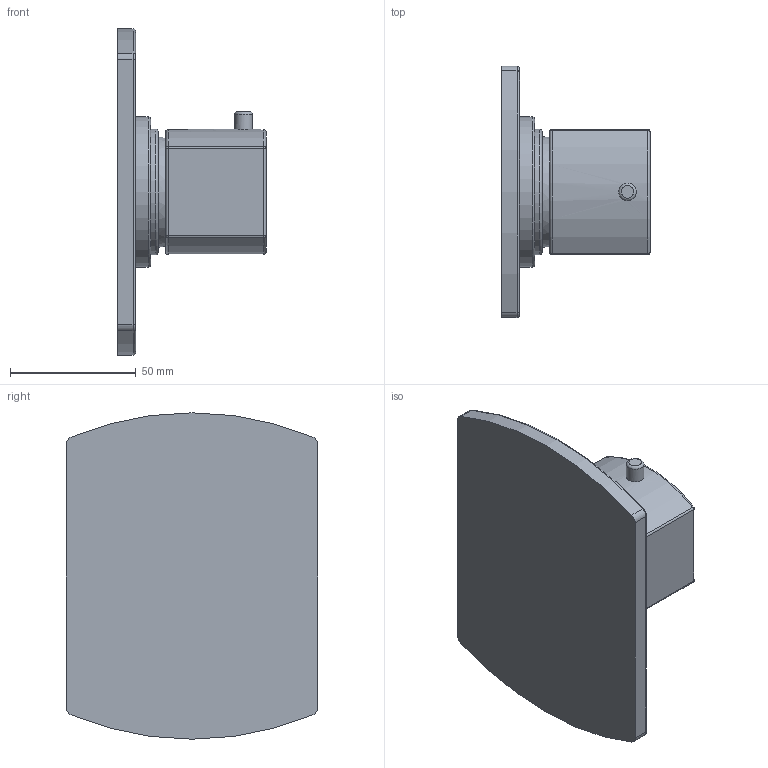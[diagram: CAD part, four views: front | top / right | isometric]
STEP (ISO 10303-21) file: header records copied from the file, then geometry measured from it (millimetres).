
FILE_DESCRIPTION(('STEP AP214'), '1');
FILE_NAME('86CR471', '', ('UNSPECIFIED'), ('UNSPECIFIED'), 'ASCON STEP Converter 1.6', 'ASCON Math Kernel', '');
FILE_SCHEMA(('AUTOMOTIVE_DESIGN { 1 0 10303 214 3 1 1}'));
Length unit declared in the file: millimetre
Bounding box: 59 x 100 x 130 mm (x, y, z)
Volume: 163179.7 mm3; surface area: 55282.5 mm2
Topology: 4 solids, 4 shells, 59 faces, 117 edges, 61 vertices
Faces by surface type: cylinder 22, plane 15, torus 14, sphere 8
Full cylindrical faces by diameter (mm): 7 x1, 44.018 x1, 50 x1, 60 x1
Entity records: 1997 total; most frequent: DIRECTION 290, CARTESIAN_POINT 283, ORIENTED_EDGE 202, AXIS2_PLACEMENT_3D 130, EDGE_CURVE 101, EDGE_LOOP 70, CIRCLE 70, COLOUR_RGB 63
